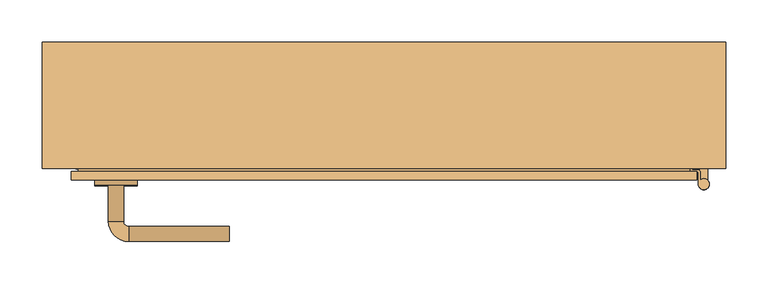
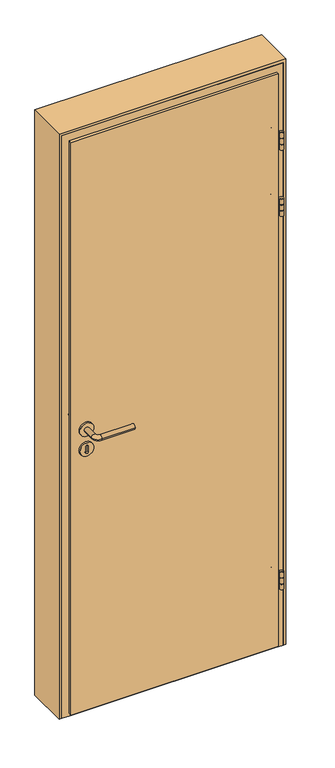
"""IFC4 building model written with IfcOpenShell, lengths in millimetres: door geometry, JW_Interior_Door_Steady_411_Single_1.0 : 790 x 1890 mm - M8 x M19."""

from ifc_helpers import new_model, si_unit, point, frame, frame_2d, origin, place, context, project, spatial, polyline, circle_curve, ellipse_curve, trimmed, segment, composite_curve, outline, extrude, faceted_brep, source, transform, mapped, element, save
from ifc_brep_helpers import plane_surface, cylinder_surface, revolved_surface, advanced_brep


def door_da3bd5c2(model_context):
    return source(origin(), model_context, "Body", "SolidModel", [
        advanced_brep(
        [(374.9018538, -88.3783893, 1955.5), (374.9018538, -79.9005704, 1955.5), (371.7009982, -76.6997148, 1955.5), (365.6997148, -76.6997148, 1955.5), (364.9, -75.9, 1955.5), (364.408042, -66.5128824, 1955.5), (364.1463622, -61.5197347, 1955.5), (361.6497884, -61.6505746, 1955.5), (361.9114682, -66.6437223, 1955.5), (362.4001557, -75.9684354, 1955.5), (365.6129452, -79.1812249, 1955.5), (371.5949734, -79.1812249, 1955.5), (372.404139, -79.9903905, 1955.5), (372.404139, -93.4990677, 1955.5), (374.9018538, -88.3783893, 1890.5), (372.404139, -93.4990677, 1890.5), (372.404139, -79.9903905, 1890.5), (371.5949734, -79.1812249, 1890.5), (365.6129452, -79.1812249, 1890.5), (362.4001557, -75.9684354, 1890.5), (361.9114682, -66.6437223, 1890.5), (361.6497884, -61.6505746, 1890.5), (364.1463622, -61.5197347, 1890.5), (364.408042, -66.5128824, 1890.5), (364.9, -75.9, 1890.5), (365.6997148, -76.6997148, 1890.5), (371.7009982, -76.6997148, 1890.5), (374.9018538, -79.9005704, 1890.5), (372.404139, -93.4990677, 1936.0), (374.9018538, -88.3783893, 1936.0), (374.9018538, -88.3783893, 1910.0), (372.404139, -93.4990677, 1910.0), (374.9018538, -79.9005704, 1936.0), (374.9018538, -79.9005704, 1910.0), (371.7009982, -76.6997148, 1936.0), (371.7009982, -76.6997148, 1910.0), (368.9, -76.6997148, 1936.0), (368.9, -76.6997148, 1910.0), (363.6230027, -51.5334394, 1900.5), (363.6230027, -51.5334394, 1945.5), (361.1264288, -51.6642792, 1900.5), (361.1264288, -51.6642792, 1945.5), (371.5949734, -79.1812249, 1910.0), (368.9, -79.1812249, 1910.0), (368.9, -79.1812249, 1936.0), (371.5949734, -79.1812249, 1936.0), (372.404139, -79.9903905, 1936.0), (372.404139, -79.9903905, 1910.0)],
        [
            (0, 1),
            (1, 2, circle_curve(frame((371.7009982, -79.9005704, 1955.5), z_axis=(0.0, 0.0, 1.0), x_axis=(0.0, 1.0, 0.0)), 3.2008556)),
            (2, 3),
            (3, 4, circle_curve(frame((365.6997148, -75.9, 1955.5), z_axis=(0.0, 0.0, -1.0), x_axis=(0.0, 1.0, 0.0)), 0.7997148)),
            (4, 5),
            (5, 6),
            (6, 7),
            (7, 8),
            (8, 9),
            (9, 10, circle_curve(frame((365.6129452, -75.9684354, 1955.5), z_axis=(0.0, 0.0, 1.0), x_axis=(0.0, 1.0, 0.0)), 3.2127895)),
            (10, 11),
            (11, 12, circle_curve(frame((371.5949734, -79.9903905, 1955.5), z_axis=(0.0, 0.0, -1.0), x_axis=(0.0, 1.0, 0.0)), 0.8091657)),
            (12, 13),
            (13, 0, circle_curve(frame((378.902064, -93.4990677, 1955.5), z_axis=(0.0, 0.0, 1.0), x_axis=(0.0, 1.0, 0.0)), 6.4979249)),
            (14, 15, circle_curve(frame((378.902064, -93.4990677, 1890.5), z_axis=(0.0, 0.0, -1.0), x_axis=(0.0, 1.0, 0.0)), 6.4979249)),
            (15, 16),
            (16, 17, circle_curve(frame((371.5949734, -79.9903905, 1890.5), z_axis=(0.0, 0.0, 1.0), x_axis=(0.0, 1.0, 0.0)), 0.8091657)),
            (17, 18),
            (18, 19, circle_curve(frame((365.6129452, -75.9684354, 1890.5), z_axis=(0.0, 0.0, -1.0), x_axis=(0.0, 1.0, 0.0)), 3.2127895)),
            (19, 20),
            (20, 21),
            (21, 22),
            (22, 23),
            (23, 24),
            (24, 25, circle_curve(frame((365.6997148, -75.9, 1890.5), z_axis=(0.0, 0.0, 1.0), x_axis=(0.0, 1.0, 0.0)), 0.7997148)),
            (25, 26),
            (26, 27, circle_curve(frame((371.7009982, -79.9005704, 1890.5), z_axis=(0.0, 0.0, -1.0), x_axis=(0.0, 1.0, 0.0)), 3.2008556)),
            (27, 14),
            (13, 28),
            (28, 29, circle_curve(frame((378.902064, -93.4990677, 1936.0), z_axis=(0.0, 0.0, 1.0), x_axis=(0.0, 1.0, 0.0)), 6.4979249)),
            (29, 0),
            (14, 30),
            (30, 31, circle_curve(frame((378.902064, -93.4990677, 1910.0), z_axis=(0.0, 0.0, -1.0), x_axis=(0.0, 1.0, 0.0)), 6.4979249)),
            (31, 15),
            (29, 32),
            (32, 1),
            (27, 33),
            (33, 30),
            (32, 34, circle_curve(frame((371.7009982, -79.9005704, 1936.0), z_axis=(0.0, 0.0, 1.0), x_axis=(0.0, 1.0, 0.0)), 3.2008556)),
            (34, 2),
            (26, 35),
            (35, 33, circle_curve(frame((371.7009982, -79.9005704, 1910.0), z_axis=(0.0, 0.0, -1.0), x_axis=(0.0, 1.0, 0.0)), 3.2008556)),
            (34, 36),
            (36, 37),
            (37, 35),
            (25, 3),
            (24, 4),
            (22, 38, circle_curve(frame((364.1463622, -61.5197347, 1900.5), z_axis=(0.9986295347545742, 0.05233595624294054, 0.0), x_axis=(0.05233595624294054, -0.9986295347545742, 0.0)), 10.0)),
            (38, 39),
            (39, 6, circle_curve(frame((364.1463622, -61.5197347, 1945.5), z_axis=(0.9986295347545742, 0.05233595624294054, 0.0), x_axis=(0.05233595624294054, -0.9986295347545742, 0.0)), 10.0)),
            (38, 40),
            (40, 41),
            (41, 39),
            (19, 9),
            (7, 41, circle_curve(frame((361.6497884, -61.6505746, 1945.5), z_axis=(-0.9986295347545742, -0.05233595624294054, 0.0), x_axis=(0.05233595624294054, -0.9986295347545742, 0.0)), 10.0)),
            (40, 21, circle_curve(frame((361.6497884, -61.6505746, 1900.5), z_axis=(-0.9986295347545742, -0.05233595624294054, 0.0), x_axis=(0.05233595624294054, -0.9986295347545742, 0.0)), 10.0)),
            (18, 10),
            (17, 42),
            (42, 43),
            (43, 44),
            (44, 45),
            (45, 11),
            (45, 46, circle_curve(frame((371.5949734, -79.9903905, 1936.0), z_axis=(0.0, 0.0, -1.0), x_axis=(0.0, 1.0, 0.0)), 0.8091657)),
            (46, 12),
            (16, 47),
            (47, 42, circle_curve(frame((371.5949734, -79.9903905, 1910.0), z_axis=(0.0, 0.0, 1.0), x_axis=(0.0, 1.0, 0.0)), 0.8091657)),
            (46, 28),
            (31, 47),
            (44, 36),
            (37, 43),
        ],
        [
            plane_surface(frame((374.9018538, -79.9005704, 1955.5), z_axis=(0.0, 0.0, 1.0), x_axis=(0.0, 1.0, 0.0))),
            plane_surface(frame((374.9018538, -79.9005704, 1890.5), z_axis=(0.0, 0.0, -1.0), x_axis=(0.0, -1.0, 0.0))),
            cylinder_surface(frame((378.902064, -93.4990677, 1890.5), z_axis=(0.0, 0.0, 1.0), x_axis=(0.0, 1.0, 0.0)), 6.4979249),
            plane_surface(frame((374.9018538, -88.3783893, 1955.5), z_axis=(1.0, 0.0, 0.0), x_axis=(0.0, 0.0, -1.0))),
            cylinder_surface(frame((371.7009982, -79.9005704, 1890.5), z_axis=(0.0, 0.0, 1.0), x_axis=(0.0, 1.0, 0.0)), 3.2008556),
            plane_surface(frame((371.7009982, -76.6997148, 1955.5), z_axis=(0.0, 1.0, 0.0), x_axis=(0.0, 0.0, -1.0))),
            revolved_surface(polyline([(365.6997148, -75.1002852, 1890.5), (365.6997148, -75.1002852, 1955.5)]), (365.6997148, -75.9, 1890.5), (0.0, 0.0, -1.0)),
            plane_surface(frame((364.9, -75.9, 1955.5), z_axis=(0.9986295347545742, 0.05233595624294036, 0.0), x_axis=(0.0, 0.0, -1.0))),
            plane_surface(frame((363.6230027, -51.5334394, 1955.5), z_axis=(-0.05233595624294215, 0.998629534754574, 0.0), x_axis=(0.0, 0.0, -1.0))),
            plane_surface(frame((361.1264288, -51.6642792, 1955.5), z_axis=(-0.9986295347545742, -0.05233595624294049, 0.0), x_axis=(0.0, 0.0, -1.0))),
            cylinder_surface(frame((365.6129452, -75.9684354, 1890.5), z_axis=(0.0, 0.0, 1.0), x_axis=(0.0, 1.0, 0.0)), 3.2127895),
            plane_surface(frame((365.6129452, -79.1812249, 1955.5), z_axis=(0.0, -1.0, 0.0), x_axis=(0.0, 0.0, -1.0))),
            revolved_surface(polyline([(371.5949734, -79.18122480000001, 1936.0), (371.5949734, -79.18122480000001, 1955.5)]), (371.5949734, -79.9903905, 1890.5), (0.0, 0.0, -1.0)),
            revolved_surface(polyline([(371.5949734, -79.18122480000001, 1890.5), (371.5949734, -79.18122480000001, 1910.0)]), (371.5949734, -79.9903905, 1890.5), (0.0, 0.0, -1.0)),
            plane_surface(frame((372.404139, -79.9903905, 1955.5), z_axis=(-1.0, 0.0, 0.0), x_axis=(0.0, 0.0, -1.0))),
            plane_surface(frame((386.4849846, -103.5564762, 1936.0), z_axis=(0.0, 0.0, -1.0), x_axis=(1.0, 0.0, 0.0))),
            plane_surface(frame((386.4849846, -103.5564762, 1910.0), z_axis=(0.0, 0.0, 1.0), x_axis=(-1.0, 0.0, 0.0))),
            plane_surface(frame((368.9, -73.5564762, 1936.0), z_axis=(1.0, 0.0, 0.0), x_axis=(0.0, 0.0, -1.0))),
            cylinder_surface(frame((369.1395099, -61.2580549, 1900.5), z_axis=(0.9986295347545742, 0.05233595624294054, 0.0), x_axis=(0.05233595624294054, -0.9986295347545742, 0.0)), 10.0),
            cylinder_surface(frame((369.1395099, -61.2580549, 1945.5), z_axis=(0.9986295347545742, 0.05233595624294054, 0.0), x_axis=(0.05233595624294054, -0.9986295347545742, 0.0)), 10.0),
        ],
        [
            (0, [[1, 2, 3, 4, 5, 6, 7, 8, 9, 10, 11, 12, 13, 14]]),
            (1, [[15, 16, 17, 18, 19, 20, 21, 22, 23, 24, 25, 26, 27, 28]]),
            (2, [[-14, 29, 30, 31]]),
            (2, [[-15, 32, 33, 34]]),
            (3, [[-1, -31, 35, 36]]),
            (3, [[-28, 37, 38, -32]]),
            (4, [[-2, -36, 39, 40]]),
            (4, [[-27, 41, 42, -37]]),
            (5, [[-3, -40, 43, 44, 45, -41, -26, 46]]),
            (6, [[-4, -46, -25, 47]]),
            (7, [[-47, -24, -23, 48, 49, 50, -6, -5]]),
            (8, [[-49, 51, 52, 53]]),
            (9, [[54, -9, -8, 55, -52, 56, -21, -20]]),
            (10, [[-10, -54, -19, 57]]),
            (11, [[-11, -57, -18, 58, 59, 60, 61, 62]]),
            (12, [[-12, -62, 63, 64]]),
            (13, [[-17, 65, 66, -58]]),
            (14, [[-13, -64, 67, -29]]),
            (14, [[-16, -34, 68, -65]]),
            (15, [[69, -43, -39, -35, -30, -67, -63, -61]]),
            (16, [[70, -59, -66, -68, -33, -38, -42, -45]]),
            (17, [[-69, -60, -70, -44]]),
            (18, [[-22, -56, -51, -48]]),
            (19, [[-7, -50, -53, -55]]),
        ],
    ),
        extrude(outline(composite_curve([segment(trimmed(circle_curve(frame_2d((378.9, -93.5)), 3.75), [point((375.15, -93.5))], [point((382.65, -93.5))], False, "CARTESIAN"), True, "CONTINUOUS"), segment(trimmed(circle_curve(frame_2d((378.9, -93.5)), 3.75), [point((382.65, -93.5))], [point((375.15, -93.5))], False, "CARTESIAN"), True, "CONTINUOUS")], self_intersect=False)), frame((0.0, 0.0, 1890.5), z_axis=(0.0, 0.0, 1.0), x_axis=(1.0, 0.0, 0.0)), (0.0, 0.0, 1.0), 65.0),
        extrude(outline(composite_curve([segment(trimmed(circle_curve(frame_2d((378.9, -93.5)), 6.5), [point((383.9, -89.3466881))], [point((373.9, -89.3466881))], False, "CARTESIAN"), True, "CONTINUOUS"), segment(polyline([(373.9, -89.3466881), (373.9, -75.0), (383.9, -75.0), (383.9, -89.3466881)]), True, "CONTINUOUS")], self_intersect=False)), frame((0.0, 0.0, 1913.0), z_axis=(0.0, 0.0, 1.0), x_axis=(1.0, 0.0, 0.0)), (0.0, 0.0, 1.0), 20.0),
        advanced_brep(
        [(374.9018538, -88.3783893, 1705.5), (374.9018538, -79.9005704, 1705.5), (371.7009982, -76.6997148, 1705.5), (365.6997148, -76.6997148, 1705.5), (364.9, -75.9, 1705.5), (364.408042, -66.5128824, 1705.5), (364.1463622, -61.5197347, 1705.5), (361.6497884, -61.6505746, 1705.5), (361.9114682, -66.6437223, 1705.5), (362.4001557, -75.9684354, 1705.5), (365.6129452, -79.1812249, 1705.5), (371.5949734, -79.1812249, 1705.5), (372.404139, -79.9903905, 1705.5), (372.404139, -93.4990677, 1705.5), (374.9018538, -88.3783893, 1640.5), (372.404139, -93.4990677, 1640.5), (372.404139, -79.9903905, 1640.5), (371.5949734, -79.1812249, 1640.5), (365.6129452, -79.1812249, 1640.5), (362.4001557, -75.9684354, 1640.5), (361.9114682, -66.6437223, 1640.5), (361.6497884, -61.6505746, 1640.5), (364.1463622, -61.5197347, 1640.5), (364.408042, -66.5128824, 1640.5), (364.9, -75.9, 1640.5), (365.6997148, -76.6997148, 1640.5), (371.7009982, -76.6997148, 1640.5), (374.9018538, -79.9005704, 1640.5), (372.404139, -93.4990677, 1686.0), (374.9018538, -88.3783893, 1686.0), (374.9018538, -88.3783893, 1660.0), (372.404139, -93.4990677, 1660.0), (374.9018538, -79.9005704, 1686.0), (374.9018538, -79.9005704, 1660.0), (371.7009982, -76.6997148, 1686.0), (371.7009982, -76.6997148, 1660.0), (368.9, -76.6997148, 1686.0), (368.9, -76.6997148, 1660.0), (363.6230027, -51.5334394, 1650.5), (363.6230027, -51.5334394, 1695.5), (361.1264288, -51.6642792, 1650.5), (361.1264288, -51.6642792, 1695.5), (371.5949734, -79.1812249, 1660.0), (368.9, -79.1812249, 1660.0), (368.9, -79.1812249, 1686.0), (371.5949734, -79.1812249, 1686.0), (372.404139, -79.9903905, 1686.0), (372.404139, -79.9903905, 1660.0)],
        [
            (0, 1),
            (1, 2, circle_curve(frame((371.7009982, -79.9005704, 1705.5), z_axis=(0.0, 0.0, 1.0), x_axis=(0.0, 1.0, 0.0)), 3.2008556)),
            (2, 3),
            (3, 4, circle_curve(frame((365.6997148, -75.9, 1705.5), z_axis=(0.0, 0.0, -1.0), x_axis=(0.0, 1.0, 0.0)), 0.7997148)),
            (4, 5),
            (5, 6),
            (6, 7),
            (7, 8),
            (8, 9),
            (9, 10, circle_curve(frame((365.6129452, -75.9684354, 1705.5), z_axis=(0.0, 0.0, 1.0), x_axis=(0.0, 1.0, 0.0)), 3.2127895)),
            (10, 11),
            (11, 12, circle_curve(frame((371.5949734, -79.9903905, 1705.5), z_axis=(0.0, 0.0, -1.0), x_axis=(0.0, 1.0, 0.0)), 0.8091657)),
            (12, 13),
            (13, 0, circle_curve(frame((378.902064, -93.4990677, 1705.5), z_axis=(0.0, 0.0, 1.0), x_axis=(0.0, 1.0, 0.0)), 6.4979249)),
            (14, 15, circle_curve(frame((378.902064, -93.4990677, 1640.5), z_axis=(0.0, 0.0, -1.0), x_axis=(0.0, 1.0, 0.0)), 6.4979249)),
            (15, 16),
            (16, 17, circle_curve(frame((371.5949734, -79.9903905, 1640.5), z_axis=(0.0, 0.0, 1.0), x_axis=(0.0, 1.0, 0.0)), 0.8091657)),
            (17, 18),
            (18, 19, circle_curve(frame((365.6129452, -75.9684354, 1640.5), z_axis=(0.0, 0.0, -1.0), x_axis=(0.0, 1.0, 0.0)), 3.2127895)),
            (19, 20),
            (20, 21),
            (21, 22),
            (22, 23),
            (23, 24),
            (24, 25, circle_curve(frame((365.6997148, -75.9, 1640.5), z_axis=(0.0, 0.0, 1.0), x_axis=(0.0, 1.0, 0.0)), 0.7997148)),
            (25, 26),
            (26, 27, circle_curve(frame((371.7009982, -79.9005704, 1640.5), z_axis=(0.0, 0.0, -1.0), x_axis=(0.0, 1.0, 0.0)), 3.2008556)),
            (27, 14),
            (13, 28),
            (28, 29, circle_curve(frame((378.902064, -93.4990677, 1686.0), z_axis=(0.0, 0.0, 1.0), x_axis=(0.0, 1.0, 0.0)), 6.4979249)),
            (29, 0),
            (14, 30),
            (30, 31, circle_curve(frame((378.902064, -93.4990677, 1660.0), z_axis=(0.0, 0.0, -1.0), x_axis=(0.0, 1.0, 0.0)), 6.4979249)),
            (31, 15),
            (29, 32),
            (32, 1),
            (27, 33),
            (33, 30),
            (32, 34, circle_curve(frame((371.7009982, -79.9005704, 1686.0), z_axis=(0.0, 0.0, 1.0), x_axis=(0.0, 1.0, 0.0)), 3.2008556)),
            (34, 2),
            (26, 35),
            (35, 33, circle_curve(frame((371.7009982, -79.9005704, 1660.0), z_axis=(0.0, 0.0, -1.0), x_axis=(0.0, 1.0, 0.0)), 3.2008556)),
            (34, 36),
            (36, 37),
            (37, 35),
            (25, 3),
            (24, 4),
            (22, 38, circle_curve(frame((364.1463622, -61.5197347, 1650.5), z_axis=(0.9986295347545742, 0.05233595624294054, 0.0), x_axis=(0.05233595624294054, -0.9986295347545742, 0.0)), 10.0)),
            (38, 39),
            (39, 6, circle_curve(frame((364.1463622, -61.5197347, 1695.5), z_axis=(0.9986295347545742, 0.05233595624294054, 0.0), x_axis=(0.05233595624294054, -0.9986295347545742, 0.0)), 10.0)),
            (38, 40),
            (40, 41),
            (41, 39),
            (19, 9),
            (7, 41, circle_curve(frame((361.6497884, -61.6505746, 1695.5), z_axis=(-0.9986295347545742, -0.05233595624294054, 0.0), x_axis=(0.05233595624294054, -0.9986295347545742, 0.0)), 10.0)),
            (40, 21, circle_curve(frame((361.6497884, -61.6505746, 1650.5), z_axis=(-0.9986295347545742, -0.05233595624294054, 0.0), x_axis=(0.05233595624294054, -0.9986295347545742, 0.0)), 10.0)),
            (18, 10),
            (17, 42),
            (42, 43),
            (43, 44),
            (44, 45),
            (45, 11),
            (45, 46, circle_curve(frame((371.5949734, -79.9903905, 1686.0), z_axis=(0.0, 0.0, -1.0), x_axis=(0.0, 1.0, 0.0)), 0.8091657)),
            (46, 12),
            (16, 47),
            (47, 42, circle_curve(frame((371.5949734, -79.9903905, 1660.0), z_axis=(0.0, 0.0, 1.0), x_axis=(0.0, 1.0, 0.0)), 0.8091657)),
            (46, 28),
            (31, 47),
            (44, 36),
            (37, 43),
        ],
        [
            plane_surface(frame((374.9018538, -79.9005704, 1705.5), z_axis=(0.0, 0.0, 1.0), x_axis=(0.0, 1.0, 0.0))),
            plane_surface(frame((374.9018538, -79.9005704, 1640.5), z_axis=(0.0, 0.0, -1.0), x_axis=(0.0, -1.0, 0.0))),
            cylinder_surface(frame((378.902064, -93.4990677, 1640.5), z_axis=(0.0, 0.0, 1.0), x_axis=(0.0, 1.0, 0.0)), 6.4979249),
            plane_surface(frame((374.9018538, -88.3783893, 1705.5), z_axis=(1.0, 0.0, 0.0), x_axis=(0.0, 0.0, -1.0))),
            cylinder_surface(frame((371.7009982, -79.9005704, 1640.5), z_axis=(0.0, 0.0, 1.0), x_axis=(0.0, 1.0, 0.0)), 3.2008556),
            plane_surface(frame((371.7009982, -76.6997148, 1705.5), z_axis=(0.0, 1.0, 0.0), x_axis=(0.0, 0.0, -1.0))),
            revolved_surface(polyline([(365.6997148, -75.1002852, 1640.5), (365.6997148, -75.1002852, 1705.5)]), (365.6997148, -75.9, 1640.5), (0.0, 0.0, -1.0)),
            plane_surface(frame((364.9, -75.9, 1705.5), z_axis=(0.9986295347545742, 0.05233595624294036, 0.0), x_axis=(0.0, 0.0, -1.0))),
            plane_surface(frame((363.6230027, -51.5334394, 1705.5), z_axis=(-0.05233595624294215, 0.998629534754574, 0.0), x_axis=(0.0, 0.0, -1.0))),
            plane_surface(frame((361.1264288, -51.6642792, 1705.5), z_axis=(-0.9986295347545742, -0.05233595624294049, 0.0), x_axis=(0.0, 0.0, -1.0))),
            cylinder_surface(frame((365.6129452, -75.9684354, 1640.5), z_axis=(0.0, 0.0, 1.0), x_axis=(0.0, 1.0, 0.0)), 3.2127895),
            plane_surface(frame((365.6129452, -79.1812249, 1705.5), z_axis=(0.0, -1.0, 0.0), x_axis=(0.0, 0.0, -1.0))),
            revolved_surface(polyline([(371.5949734, -79.18122480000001, 1686.0), (371.5949734, -79.18122480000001, 1705.5)]), (371.5949734, -79.9903905, 1640.5), (0.0, 0.0, -1.0)),
            revolved_surface(polyline([(371.5949734, -79.18122480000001, 1640.5), (371.5949734, -79.18122480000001, 1660.0)]), (371.5949734, -79.9903905, 1640.5), (0.0, 0.0, -1.0)),
            plane_surface(frame((372.404139, -79.9903905, 1705.5), z_axis=(-1.0, 0.0, 0.0), x_axis=(0.0, 0.0, -1.0))),
            plane_surface(frame((386.4849846, -103.5564762, 1686.0), z_axis=(0.0, 0.0, -1.0), x_axis=(1.0, 0.0, 0.0))),
            plane_surface(frame((386.4849846, -103.5564762, 1660.0), z_axis=(0.0, 0.0, 1.0), x_axis=(-1.0, 0.0, 0.0))),
            plane_surface(frame((368.9, -73.5564762, 1686.0), z_axis=(1.0, 0.0, 0.0), x_axis=(0.0, 0.0, -1.0))),
            cylinder_surface(frame((369.1395099, -61.2580549, 1650.5), z_axis=(0.9986295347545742, 0.05233595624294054, 0.0), x_axis=(0.05233595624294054, -0.9986295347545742, 0.0)), 10.0),
            cylinder_surface(frame((369.1395099, -61.2580549, 1695.5), z_axis=(0.9986295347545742, 0.05233595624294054, 0.0), x_axis=(0.05233595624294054, -0.9986295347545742, 0.0)), 10.0),
        ],
        [
            (0, [[1, 2, 3, 4, 5, 6, 7, 8, 9, 10, 11, 12, 13, 14]]),
            (1, [[15, 16, 17, 18, 19, 20, 21, 22, 23, 24, 25, 26, 27, 28]]),
            (2, [[-14, 29, 30, 31]]),
            (2, [[-15, 32, 33, 34]]),
            (3, [[-1, -31, 35, 36]]),
            (3, [[-28, 37, 38, -32]]),
            (4, [[-2, -36, 39, 40]]),
            (4, [[-27, 41, 42, -37]]),
            (5, [[-3, -40, 43, 44, 45, -41, -26, 46]]),
            (6, [[-4, -46, -25, 47]]),
            (7, [[-47, -24, -23, 48, 49, 50, -6, -5]]),
            (8, [[-49, 51, 52, 53]]),
            (9, [[54, -9, -8, 55, -52, 56, -21, -20]]),
            (10, [[-10, -54, -19, 57]]),
            (11, [[-11, -57, -18, 58, 59, 60, 61, 62]]),
            (12, [[-12, -62, 63, 64]]),
            (13, [[-17, 65, 66, -58]]),
            (14, [[-13, -64, 67, -29]]),
            (14, [[-16, -34, 68, -65]]),
            (15, [[69, -43, -39, -35, -30, -67, -63, -61]]),
            (16, [[70, -59, -66, -68, -33, -38, -42, -45]]),
            (17, [[-69, -60, -70, -44]]),
            (18, [[-22, -56, -51, -48]]),
            (19, [[-7, -50, -53, -55]]),
        ],
    ),
        extrude(outline(composite_curve([segment(trimmed(circle_curve(frame_2d((378.9, -93.5)), 3.75), [point((375.15, -93.5))], [point((382.65, -93.5))], False, "CARTESIAN"), True, "CONTINUOUS"), segment(trimmed(circle_curve(frame_2d((378.9, -93.5)), 3.75), [point((382.65, -93.5))], [point((375.15, -93.5))], False, "CARTESIAN"), True, "CONTINUOUS")], self_intersect=False)), frame((0.0, 0.0, 1640.5), z_axis=(0.0, 0.0, 1.0), x_axis=(1.0, 0.0, 0.0)), (0.0, 0.0, 1.0), 65.0),
        extrude(outline(composite_curve([segment(trimmed(circle_curve(frame_2d((378.9, -93.5)), 6.5), [point((383.9, -89.3466881))], [point((373.9, -89.3466881))], False, "CARTESIAN"), True, "CONTINUOUS"), segment(polyline([(373.9, -89.3466881), (373.9, -75.0), (383.9, -75.0), (383.9, -89.3466881)]), True, "CONTINUOUS")], self_intersect=False)), frame((0.0, 0.0, 1663.0), z_axis=(0.0, 0.0, 1.0), x_axis=(1.0, 0.0, 0.0)), (0.0, 0.0, 1.0), 20.0),
        advanced_brep(
        [(374.9018538, -88.3783893, 295.5), (374.9018538, -79.9005704, 295.5), (371.7009982, -76.6997148, 295.5), (365.6997148, -76.6997148, 295.5), (364.9, -75.9, 295.5), (364.408042, -66.5128824, 295.5), (364.1463622, -61.5197347, 295.5), (361.6497884, -61.6505746, 295.5), (361.9114682, -66.6437223, 295.5), (362.4001557, -75.9684354, 295.5), (365.6129452, -79.1812249, 295.5), (371.5949734, -79.1812249, 295.5), (372.404139, -79.9903905, 295.5), (372.404139, -93.4990677, 295.5), (374.9018538, -88.3783893, 230.5), (372.404139, -93.4990677, 230.5), (372.404139, -79.9903905, 230.5), (371.5949734, -79.1812249, 230.5), (365.6129452, -79.1812249, 230.5), (362.4001557, -75.9684354, 230.5), (361.9114682, -66.6437223, 230.5), (361.6497884, -61.6505746, 230.5), (364.1463622, -61.5197347, 230.5), (364.408042, -66.5128824, 230.5), (364.9, -75.9, 230.5), (365.6997148, -76.6997148, 230.5), (371.7009982, -76.6997148, 230.5), (374.9018538, -79.9005704, 230.5), (372.404139, -93.4990677, 276.0), (374.9018538, -88.3783893, 276.0), (374.9018538, -88.3783893, 250.0), (372.404139, -93.4990677, 250.0), (374.9018538, -79.9005704, 276.0), (374.9018538, -79.9005704, 250.0), (371.7009982, -76.6997148, 276.0), (371.7009982, -76.6997148, 250.0), (368.9, -76.6997148, 276.0), (368.9, -76.6997148, 250.0), (363.6230027, -51.5334394, 240.5), (363.6230027, -51.5334394, 285.5), (361.1264288, -51.6642792, 240.5), (361.1264288, -51.6642792, 285.5), (371.5949734, -79.1812249, 250.0), (368.9, -79.1812249, 250.0), (368.9, -79.1812249, 276.0), (371.5949734, -79.1812249, 276.0), (372.404139, -79.9903905, 276.0), (372.404139, -79.9903905, 250.0)],
        [
            (0, 1),
            (1, 2, circle_curve(frame((371.7009982, -79.9005704, 295.5), z_axis=(0.0, 0.0, 1.0), x_axis=(0.0, 1.0, 0.0)), 3.2008556)),
            (2, 3),
            (3, 4, circle_curve(frame((365.6997148, -75.9, 295.5), z_axis=(0.0, 0.0, -1.0), x_axis=(0.0, 1.0, 0.0)), 0.7997148)),
            (4, 5),
            (5, 6),
            (6, 7),
            (7, 8),
            (8, 9),
            (9, 10, circle_curve(frame((365.6129452, -75.9684354, 295.5), z_axis=(0.0, 0.0, 1.0), x_axis=(0.0, 1.0, 0.0)), 3.2127895)),
            (10, 11),
            (11, 12, circle_curve(frame((371.5949734, -79.9903905, 295.5), z_axis=(0.0, 0.0, -1.0), x_axis=(0.0, 1.0, 0.0)), 0.8091657)),
            (12, 13),
            (13, 0, circle_curve(frame((378.902064, -93.4990677, 295.5), z_axis=(0.0, 0.0, 1.0), x_axis=(0.0, 1.0, 0.0)), 6.4979249)),
            (14, 15, circle_curve(frame((378.902064, -93.4990677, 230.5), z_axis=(0.0, 0.0, -1.0), x_axis=(0.0, 1.0, 0.0)), 6.4979249)),
            (15, 16),
            (16, 17, circle_curve(frame((371.5949734, -79.9903905, 230.5), z_axis=(0.0, 0.0, 1.0), x_axis=(0.0, 1.0, 0.0)), 0.8091657)),
            (17, 18),
            (18, 19, circle_curve(frame((365.6129452, -75.9684354, 230.5), z_axis=(0.0, 0.0, -1.0), x_axis=(0.0, 1.0, 0.0)), 3.2127895)),
            (19, 20),
            (20, 21),
            (21, 22),
            (22, 23),
            (23, 24),
            (24, 25, circle_curve(frame((365.6997148, -75.9, 230.5), z_axis=(0.0, 0.0, 1.0), x_axis=(0.0, 1.0, 0.0)), 0.7997148)),
            (25, 26),
            (26, 27, circle_curve(frame((371.7009982, -79.9005704, 230.5), z_axis=(0.0, 0.0, -1.0), x_axis=(0.0, 1.0, 0.0)), 3.2008556)),
            (27, 14),
            (13, 28),
            (28, 29, circle_curve(frame((378.902064, -93.4990677, 276.0), z_axis=(0.0, 0.0, 1.0), x_axis=(0.0, 1.0, 0.0)), 6.4979249)),
            (29, 0),
            (14, 30),
            (30, 31, circle_curve(frame((378.902064, -93.4990677, 250.0), z_axis=(0.0, 0.0, -1.0), x_axis=(0.0, 1.0, 0.0)), 6.4979249)),
            (31, 15),
            (29, 32),
            (32, 1),
            (27, 33),
            (33, 30),
            (32, 34, circle_curve(frame((371.7009982, -79.9005704, 276.0), z_axis=(0.0, 0.0, 1.0), x_axis=(0.0, 1.0, 0.0)), 3.2008556)),
            (34, 2),
            (26, 35),
            (35, 33, circle_curve(frame((371.7009982, -79.9005704, 250.0), z_axis=(0.0, 0.0, -1.0), x_axis=(0.0, 1.0, 0.0)), 3.2008556)),
            (34, 36),
            (36, 37),
            (37, 35),
            (25, 3),
            (24, 4),
            (22, 38, circle_curve(frame((364.1463622, -61.5197347, 240.5), z_axis=(0.9986295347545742, 0.05233595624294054, 0.0), x_axis=(0.05233595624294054, -0.9986295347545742, 0.0)), 10.0)),
            (38, 39),
            (39, 6, circle_curve(frame((364.1463622, -61.5197347, 285.5), z_axis=(0.9986295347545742, 0.05233595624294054, 0.0), x_axis=(0.05233595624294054, -0.9986295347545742, 0.0)), 10.0)),
            (38, 40),
            (40, 41),
            (41, 39),
            (19, 9),
            (7, 41, circle_curve(frame((361.6497884, -61.6505746, 285.5), z_axis=(-0.9986295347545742, -0.05233595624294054, 0.0), x_axis=(0.05233595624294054, -0.9986295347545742, 0.0)), 10.0)),
            (40, 21, circle_curve(frame((361.6497884, -61.6505746, 240.5), z_axis=(-0.9986295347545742, -0.05233595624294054, 0.0), x_axis=(0.05233595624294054, -0.9986295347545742, 0.0)), 10.0)),
            (18, 10),
            (17, 42),
            (42, 43),
            (43, 44),
            (44, 45),
            (45, 11),
            (45, 46, circle_curve(frame((371.5949734, -79.9903905, 276.0), z_axis=(0.0, 0.0, -1.0), x_axis=(0.0, 1.0, 0.0)), 0.8091657)),
            (46, 12),
            (16, 47),
            (47, 42, circle_curve(frame((371.5949734, -79.9903905, 250.0), z_axis=(0.0, 0.0, 1.0), x_axis=(0.0, 1.0, 0.0)), 0.8091657)),
            (46, 28),
            (31, 47),
            (44, 36),
            (37, 43),
        ],
        [
            plane_surface(frame((374.9018538, -79.9005704, 295.5), z_axis=(0.0, 0.0, 1.0), x_axis=(0.0, 1.0, 0.0))),
            plane_surface(frame((374.9018538, -79.9005704, 230.5), z_axis=(0.0, 0.0, -1.0), x_axis=(0.0, -1.0, 0.0))),
            cylinder_surface(frame((378.902064, -93.4990677, 230.5), z_axis=(0.0, 0.0, 1.0), x_axis=(0.0, 1.0, 0.0)), 6.4979249),
            plane_surface(frame((374.9018538, -88.3783893, 295.5), z_axis=(1.0, 0.0, 0.0), x_axis=(0.0, 0.0, -1.0))),
            cylinder_surface(frame((371.7009982, -79.9005704, 230.5), z_axis=(0.0, 0.0, 1.0), x_axis=(0.0, 1.0, 0.0)), 3.2008556),
            plane_surface(frame((371.7009982, -76.6997148, 295.5), z_axis=(0.0, 1.0, 0.0), x_axis=(0.0, 0.0, -1.0))),
            revolved_surface(polyline([(365.6997148, -75.1002852, 230.5), (365.6997148, -75.1002852, 295.5)]), (365.6997148, -75.9, 230.5), (0.0, 0.0, -1.0)),
            plane_surface(frame((364.9, -75.9, 295.5), z_axis=(0.9986295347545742, 0.05233595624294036, 0.0), x_axis=(0.0, 0.0, -1.0))),
            plane_surface(frame((363.6230027, -51.5334394, 295.5), z_axis=(-0.05233595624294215, 0.998629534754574, 0.0), x_axis=(0.0, 0.0, -1.0))),
            plane_surface(frame((361.1264288, -51.6642792, 295.5), z_axis=(-0.9986295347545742, -0.05233595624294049, 0.0), x_axis=(0.0, 0.0, -1.0))),
            cylinder_surface(frame((365.6129452, -75.9684354, 230.5), z_axis=(0.0, 0.0, 1.0), x_axis=(0.0, 1.0, 0.0)), 3.2127895),
            plane_surface(frame((365.6129452, -79.1812249, 295.5), z_axis=(0.0, -1.0, 0.0), x_axis=(0.0, 0.0, -1.0))),
            revolved_surface(polyline([(371.5949734, -79.18122480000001, 276.0), (371.5949734, -79.18122480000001, 295.5)]), (371.5949734, -79.9903905, 230.5), (0.0, 0.0, -1.0)),
            revolved_surface(polyline([(371.5949734, -79.18122480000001, 230.5), (371.5949734, -79.18122480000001, 250.0)]), (371.5949734, -79.9903905, 230.5), (0.0, 0.0, -1.0)),
            plane_surface(frame((372.404139, -79.9903905, 295.5), z_axis=(-1.0, 0.0, 0.0), x_axis=(0.0, 0.0, -1.0))),
            plane_surface(frame((386.4849846, -103.5564762, 276.0), z_axis=(0.0, 0.0, -1.0), x_axis=(1.0, 0.0, 0.0))),
            plane_surface(frame((386.4849846, -103.5564762, 250.0), z_axis=(0.0, 0.0, 1.0), x_axis=(-1.0, 0.0, 0.0))),
            plane_surface(frame((368.9, -73.5564762, 276.0), z_axis=(1.0, 0.0, 0.0), x_axis=(0.0, 0.0, -1.0))),
            cylinder_surface(frame((369.1395099, -61.2580549, 240.5), z_axis=(0.9986295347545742, 0.05233595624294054, 0.0), x_axis=(0.05233595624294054, -0.9986295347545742, 0.0)), 10.0),
            cylinder_surface(frame((369.1395099, -61.2580549, 285.5), z_axis=(0.9986295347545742, 0.05233595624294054, 0.0), x_axis=(0.05233595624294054, -0.9986295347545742, 0.0)), 10.0),
        ],
        [
            (0, [[1, 2, 3, 4, 5, 6, 7, 8, 9, 10, 11, 12, 13, 14]]),
            (1, [[15, 16, 17, 18, 19, 20, 21, 22, 23, 24, 25, 26, 27, 28]]),
            (2, [[-14, 29, 30, 31]]),
            (2, [[-15, 32, 33, 34]]),
            (3, [[-1, -31, 35, 36]]),
            (3, [[-28, 37, 38, -32]]),
            (4, [[-2, -36, 39, 40]]),
            (4, [[-27, 41, 42, -37]]),
            (5, [[-3, -40, 43, 44, 45, -41, -26, 46]]),
            (6, [[-4, -46, -25, 47]]),
            (7, [[-47, -24, -23, 48, 49, 50, -6, -5]]),
            (8, [[-49, 51, 52, 53]]),
            (9, [[54, -9, -8, 55, -52, 56, -21, -20]]),
            (10, [[-10, -54, -19, 57]]),
            (11, [[-11, -57, -18, 58, 59, 60, 61, 62]]),
            (12, [[-12, -62, 63, 64]]),
            (13, [[-17, 65, 66, -58]]),
            (14, [[-13, -64, 67, -29]]),
            (14, [[-16, -34, 68, -65]]),
            (15, [[69, -43, -39, -35, -30, -67, -63, -61]]),
            (16, [[70, -59, -66, -68, -33, -38, -42, -45]]),
            (17, [[-69, -60, -70, -44]]),
            (18, [[-22, -56, -51, -48]]),
            (19, [[-7, -50, -53, -55]]),
        ],
    ),
        extrude(outline(composite_curve([segment(trimmed(circle_curve(frame_2d((378.9, -93.5)), 3.75), [point((375.15, -93.5))], [point((382.65, -93.5))], False, "CARTESIAN"), True, "CONTINUOUS"), segment(trimmed(circle_curve(frame_2d((378.9, -93.5)), 3.75), [point((382.65, -93.5))], [point((375.15, -93.5))], False, "CARTESIAN"), True, "CONTINUOUS")], self_intersect=False)), frame((0.0, 0.0, 230.5), z_axis=(0.0, 0.0, 1.0), x_axis=(1.0, 0.0, 0.0)), (0.0, 0.0, 1.0), 65.0),
        extrude(outline(composite_curve([segment(trimmed(circle_curve(frame_2d((378.9, -93.5)), 6.5), [point((383.9, -89.3466881))], [point((373.9, -89.3466881))], False, "CARTESIAN"), True, "CONTINUOUS"), segment(polyline([(373.9, -89.3466881), (373.9, -75.0), (383.9, -75.0), (383.9, -89.3466881)]), True, "CONTINUOUS")], self_intersect=False)), frame((0.0, 0.0, 253.0), z_axis=(0.0, 0.0, 1.0), x_axis=(1.0, 0.0, 0.0)), (0.0, 0.0, 1.0), 20.0),
        faceted_brep([(-395.0, 17.0, 0.0), (-353.0, 17.0, 0.0), (-353.0, -45.0, 0.0), (-365.0, -45.0, 0.0), (-365.0, -75.0, 0.0), (-395.0, -75.0, 0.0), (-395.0, -75.0, 2200.0), (-395.0, 17.0, 2200.0), (-365.0, -75.0, 2170.0), (365.0, -75.0, 2170.0), (365.0, -75.0, 0.0), (395.0, -75.0, 0.0), (395.0, -75.0, 2200.0), (-365.0, -45.0, 2170.0), (-353.0, -45.0, 2158.0), (353.0, -45.0, 2158.0), (353.0, -45.0, 0.0), (365.0, -45.0, 0.0), (365.0, -45.0, 2170.0), (-353.0, 17.0, 2158.0), (395.0, 17.0, 2200.0), (395.0, 17.0, 0.0), (353.0, 17.0, 0.0), (353.0, 17.0, 2158.0)], [[[0, 1, 2, 3, 4, 5]], [[5, 6, 7, 0]], [[4, 8, 9, 10, 11, 12, 6, 5]], [[3, 13, 8, 4]], [[2, 14, 15, 16, 17, 18, 13, 3]], [[1, 19, 14, 2]], [[0, 7, 20, 21, 22, 23, 19, 1]], [[12, 11, 21, 20]], [[21, 11, 10, 17, 16, 22]], [[18, 17, 10, 9]], [[23, 22, 16, 15]], [[6, 12, 20, 7]], [[13, 18, 9, 8]], [[19, 23, 15, 14]]]),
        faceted_brep([(365.0, -75.0, 0.0), (365.0, -45.0, 0.0), (365.0, -45.0, 15.0), (365.0, -75.0, 15.0), (-365.0, -45.0, 15.0), (-365.0, -45.0, 0.0), (-365.0, -75.0, 0.0), (-365.0, -75.0, 15.0), (-353.0, -45.0, 0.0), (-353.0, 17.0, 0.0), (353.0, 17.0, 0.0), (353.0, -45.0, 0.0), (353.0, -45.0, 15.0), (-353.0, -45.0, 15.0), (353.0, -45.0, 22.0), (-353.0, -45.0, 22.0), (353.0, 17.0, 22.0), (-353.0, 17.0, 22.0)], [[[0, 1, 2, 3]], [[4, 5, 6, 7]], [[6, 5, 8, 9, 10, 11, 1, 0]], [[3, 7, 6, 0]], [[2, 12, 13, 4, 7, 3]], [[12, 14, 15, 13]], [[14, 16, 17, 15]], [[9, 17, 16, 10]], [[8, 5, 4, 13]], [[13, 15, 17, 9, 8]], [[11, 10, 16, 14, 12]], [[12, 2, 1, 11]]]),
        extrude(outline(composite_curve([segment(trimmed(circle_curve(frame_2d((1001.0, -317.5)), 25.0), [point((1001.0, -292.5))], [point((1001.0, -342.5))], False, "CARTESIAN"), True, "CONTINUOUS"), segment(trimmed(circle_curve(frame_2d((1001.0, -317.5)), 25.0), [point((1001.0, -342.5))], [point((1001.0, -292.5))], False, "CARTESIAN"), True, "CONTINUOUS")], self_intersect=False), holes=[composite_curve([segment(polyline([(989.756589, -321.5), (1012.243411, -321.5)]), True, "CONTINUOUS"), segment(trimmed(circle_curve(frame_2d((1012.243411, -317.5)), 4.0), [point((1012.243411, -321.5))], [point((1012.243411, -313.5))], True, "CARTESIAN"), True, "CONTINUOUS"), segment(polyline([(1012.243411, -313.5), (989.756589, -313.5)]), True, "CONTINUOUS"), segment(trimmed(circle_curve(frame_2d((989.756589, -317.5)), 4.0), [point((989.756589, -313.5))], [point((989.756589, -321.5))], True, "CARTESIAN"), True, "CONTINUOUS")], self_intersect=False)]), frame((0.0, -48.5, 0.0), z_axis=(0.0, 1.0, 0.0), x_axis=(0.0, 0.0, 1.0)), (0.0, 0.0, 1.0), 7.0),
        extrude(outline(composite_curve([segment(trimmed(circle_curve(frame_2d((1001.0, -317.5)), 25.0), [point((1001.0, -292.5))], [point((1001.0, -342.5))], False, "CARTESIAN"), True, "CONTINUOUS"), segment(trimmed(circle_curve(frame_2d((1001.0, -317.5)), 25.0), [point((1001.0, -342.5))], [point((1001.0, -292.5))], False, "CARTESIAN"), True, "CONTINUOUS")], self_intersect=False), holes=[composite_curve([segment(trimmed(circle_curve(frame_2d((1012.243411, -317.5)), 4.0), [point((1012.243411, -321.5))], [point((1012.243411, -313.5))], True, "CARTESIAN"), True, "CONTINUOUS"), segment(polyline([(1012.243411, -313.5), (989.756589, -313.5)]), True, "CONTINUOUS"), segment(trimmed(circle_curve(frame_2d((989.756589, -317.5)), 4.0), [point((989.756589, -313.5))], [point((989.756589, -321.5))], True, "CARTESIAN"), True, "CONTINUOUS"), segment(polyline([(989.756589, -321.5), (1012.243411, -321.5)]), True, "CONTINUOUS")], self_intersect=False)]), frame((0.0, -95.5, 0.0), z_axis=(0.0, 1.0, 0.0), x_axis=(0.0, 0.0, 1.0)), (0.0, 0.0, 1.0), 7.0),
        advanced_brep(
        [(-342.5, -42.5, 1075.0), (-292.5, -42.5, 1075.0), (-308.5346073, -42.5, 1075.0), (-326.4653927, -42.5, 1075.0), (-342.5, -48.5, 1075.0), (-292.5, -48.5, 1075.0), (-308.5346073, 0.4627146, 1075.0), (-326.4653927, 0.4627146, 1075.0), (-302.5, 6.4973219, 1075.0), (-302.5, 24.4281073, 1075.0), (-183.5, 6.4973219, 1075.0), (-183.5, 24.4281073, 1075.0)],
        [
            (0, 1, circle_curve(frame((-317.5, -42.5, 1075.0), z_axis=(0.0, 1.0, 0.0), x_axis=(1.0, 0.0, 0.0)), 25.0)),
            (1, 0, circle_curve(frame((-317.5, -42.5, 1075.0), z_axis=(0.0, 1.0, 0.0), x_axis=(1.0, 0.0, 0.0)), 25.0)),
            (2, 3, circle_curve(frame((-317.5, -42.5, 1075.0), z_axis=(0.0, -1.0, 0.0), x_axis=(-1.0, 0.0, 0.0)), 8.9653927)),
            (3, 2, circle_curve(frame((-317.5, -42.5, 1075.0), z_axis=(0.0, -1.0, 0.0), x_axis=(-1.0, 0.0, 0.0)), 8.9653927)),
            (4, 5, circle_curve(frame((-317.5, -48.5, 1075.0), z_axis=(0.0, -1.0, 0.0), x_axis=(1.0, 0.0, 0.0)), 25.0)),
            (5, 4, circle_curve(frame((-317.5, -48.5, 1075.0), z_axis=(0.0, -1.0, 0.0), x_axis=(1.0, 0.0, 0.0)), 25.0)),
            (1, 5),
            (4, 0),
            (2, 6),
            (6, 7, circle_curve(frame((-317.5, 0.4627146, 1075.0), z_axis=(0.0, -1.0, 0.0), x_axis=(-1.0, 0.0, 0.0)), 8.9653927)),
            (7, 3),
            (7, 6, circle_curve(frame((-317.5, 0.4627146, 1075.0), z_axis=(0.0, -1.0, 0.0), x_axis=(-1.0, 0.0, 0.0)), 8.9653927)),
            (6, 8, circle_curve(frame((-302.5, 0.4627146, 1075.0), z_axis=(0.0, 0.0, -1.0), x_axis=(-1.0, 0.0, 0.0)), 6.0346073)),
            (8, 9, circle_curve(frame((-302.5, 15.4627146, 1075.0), z_axis=(-1.0, 0.0, 0.0), x_axis=(0.0, 1.0, 0.0)), 8.9653927)),
            (9, 7, circle_curve(frame((-302.5, 0.4627146, 1075.0), z_axis=(0.0, 0.0, 1.0), x_axis=(-1.0, 0.0, 0.0)), 23.9653927)),
            (9, 8, circle_curve(frame((-302.5, 15.4627146, 1075.0), z_axis=(-1.0, 0.0, 0.0), x_axis=(0.0, 1.0, 0.0)), 8.9653927)),
            (10, 11, circle_curve(frame((-183.5, 15.4627146, 1075.0), z_axis=(1.0, 0.0, 0.0), x_axis=(0.0, 1.0, 0.0)), 8.9653927)),
            (11, 10, circle_curve(frame((-183.5, 15.4627146, 1075.0), z_axis=(1.0, 0.0, 0.0), x_axis=(0.0, 1.0, 0.0)), 8.9653927)),
            (8, 10),
            (11, 9),
        ],
        [
            plane_surface(frame((-292.5, -42.5, 1075.0), z_axis=(0.0, 1.0, 0.0), x_axis=(0.0, 0.0, -1.0))),
            plane_surface(frame((-292.5, -48.5, 1075.0), z_axis=(0.0, -1.0, 0.0), x_axis=(0.0, 0.0, 1.0))),
            cylinder_surface(frame((-317.5, -42.5, 1075.0), z_axis=(0.0, -1.0, 0.0), x_axis=(1.0, 0.0, 0.0)), 25.0),
            cylinder_surface(frame((-317.5, -42.5, 1075.0), z_axis=(0.0, -1.0, 0.0), x_axis=(-1.0, 0.0, 0.0)), 8.9653927),
            revolved_surface(trimmed(ellipse_curve(frame((-317.5, 0.4627146, 1075.0), z_axis=(0.0, -1.0, 0.0), x_axis=(-1.0, 0.0, 0.0)), 8.9653927, 8.9653927), [point((-308.5346073, 0.4627146, 1075.0))], [point((-326.4653927, 0.4627146, 1075.0))], True, "CARTESIAN"), (-302.5, 0.4627146, 1075.0), (0.0, 0.0, -1.0)),
            revolved_surface(trimmed(ellipse_curve(frame((-317.5, 0.4627146, 1075.0), z_axis=(0.0, -1.0, 0.0), x_axis=(-1.0, 0.0, 0.0)), 8.9653927, 8.9653927), [point((-326.4653927, 0.4627146, 1075.0))], [point((-308.5346073, 0.4627146, 1075.0))], True, "CARTESIAN"), (-302.5, 0.4627146, 1075.0), (0.0, 0.0, -1.0)),
            plane_surface(frame((-183.5, 15.4627146, 1075.0), z_axis=(1.0, 0.0, 0.0), x_axis=(0.0, 0.0, 1.0))),
            cylinder_surface(frame((-302.5, 15.4627146, 1075.0), z_axis=(-1.0, 0.0, 0.0), x_axis=(0.0, 1.0, 0.0)), 8.9653927),
        ],
        [
            (0, [[1, 2], [3, 4]]),
            (1, [[5, 6]]),
            (2, [[-2, 7, -5, 8]]),
            (2, [[-1, -8, -6, -7]]),
            (3, [[9, 10, 11, -3]]),
            (3, [[-9, -4, -11, 12]]),
            (4, [[-10, 13, 14, 15]]),
            (5, [[-12, -15, 16, -13]]),
            (6, [[17, 18]]),
            (7, [[-14, 19, -18, 20]]),
            (7, [[-16, -20, -17, -19]]),
        ],
    ),
        advanced_brep(
        [(-342.5, -94.5, 1075.0), (-292.5, -94.5, 1075.0), (-308.5346073, -94.5, 1075.0), (-326.4653927, -94.5, 1075.0), (-342.5, -88.5, 1075.0), (-292.5, -88.5, 1075.0), (-326.4653927, -137.4627146, 1075.0), (-308.5346073, -137.4627146, 1075.0), (-302.5, -161.4281073, 1075.0), (-302.5, -143.4973219, 1075.0), (-183.5, -143.4973219, 1075.0), (-183.5, -161.4281073, 1075.0)],
        [
            (0, 1, circle_curve(frame((-317.5, -94.5, 1075.0), z_axis=(0.0, -1.0, 0.0), x_axis=(1.0, 0.0, 0.0)), 25.0)),
            (1, 0, circle_curve(frame((-317.5, -94.5, 1075.0), z_axis=(0.0, -1.0, 0.0), x_axis=(1.0, 0.0, 0.0)), 25.0)),
            (2, 3, circle_curve(frame((-317.5, -94.5, 1075.0), z_axis=(0.0, 1.0, 0.0), x_axis=(-1.0, 0.0, 0.0)), 8.9653927)),
            (3, 2, circle_curve(frame((-317.5, -94.5, 1075.0), z_axis=(0.0, 1.0, 0.0), x_axis=(-1.0, 0.0, 0.0)), 8.9653927)),
            (4, 5, circle_curve(frame((-317.5, -88.5, 1075.0), z_axis=(0.0, 1.0, 0.0), x_axis=(1.0, 0.0, 0.0)), 25.0)),
            (5, 4, circle_curve(frame((-317.5, -88.5, 1075.0), z_axis=(0.0, 1.0, 0.0), x_axis=(1.0, 0.0, 0.0)), 25.0)),
            (0, 4),
            (5, 1),
            (3, 6),
            (6, 7, circle_curve(frame((-317.5, -137.4627146, 1075.0), z_axis=(0.0, 1.0, 0.0), x_axis=(-1.0, 0.0, 0.0)), 8.9653927)),
            (7, 2),
            (7, 6, circle_curve(frame((-317.5, -137.4627146, 1075.0), z_axis=(0.0, 1.0, 0.0), x_axis=(-1.0, 0.0, 0.0)), 8.9653927)),
            (6, 8, circle_curve(frame((-302.5, -137.4627146, 1075.0), z_axis=(0.0, 0.0, 1.0), x_axis=(-1.0, 0.0, 0.0)), 23.9653927)),
            (8, 9, circle_curve(frame((-302.5, -152.4627146, 1075.0), z_axis=(-1.0, 0.0, 0.0), x_axis=(0.0, -1.0, 0.0)), 8.9653927)),
            (9, 7, circle_curve(frame((-302.5, -137.4627146, 1075.0), z_axis=(0.0, 0.0, -1.0), x_axis=(-1.0, 0.0, 0.0)), 6.0346073)),
            (9, 8, circle_curve(frame((-302.5, -152.4627146, 1075.0), z_axis=(-1.0, 0.0, 0.0), x_axis=(0.0, -1.0, 0.0)), 8.9653927)),
            (10, 11, circle_curve(frame((-183.5, -152.4627146, 1075.0), z_axis=(1.0, 0.0, 0.0), x_axis=(0.0, -1.0, 0.0)), 8.9653927)),
            (11, 10, circle_curve(frame((-183.5, -152.4627146, 1075.0), z_axis=(1.0, 0.0, 0.0), x_axis=(0.0, -1.0, 0.0)), 8.9653927)),
            (8, 11),
            (10, 9),
        ],
        [
            plane_surface(frame((-292.5, -94.5, 1075.0), z_axis=(0.0, -1.0, 0.0), x_axis=(0.0, 0.0, -1.0))),
            plane_surface(frame((-292.5, -88.5, 1075.0), z_axis=(0.0, 1.0, 0.0), x_axis=(0.0, 0.0, 1.0))),
            cylinder_surface(frame((-317.5, -94.5, 1075.0), z_axis=(0.0, 1.0, 0.0), x_axis=(1.0, 0.0, 0.0)), 25.0),
            cylinder_surface(frame((-317.5, -94.5, 1075.0), z_axis=(0.0, 1.0, 0.0), x_axis=(-1.0, 0.0, 0.0)), 8.9653927),
            revolved_surface(trimmed(ellipse_curve(frame((-317.5, -137.4627146, 1075.0), z_axis=(0.0, -1.0, 0.0), x_axis=(-1.0, 0.0, 0.0)), 8.9653927, 8.9653927), [point((-308.5346073, -137.4627146, 1075.0))], [point((-326.4653927, -137.4627146, 1075.0))], True, "CARTESIAN"), (-302.5, -137.4627146, 1075.0), (0.0, 0.0, -1.0)),
            revolved_surface(trimmed(ellipse_curve(frame((-317.5, -137.4627146, 1075.0), z_axis=(0.0, -1.0, 0.0), x_axis=(-1.0, 0.0, 0.0)), 8.9653927, 8.9653927), [point((-326.4653927, -137.4627146, 1075.0))], [point((-308.5346073, -137.4627146, 1075.0))], True, "CARTESIAN"), (-302.5, -137.4627146, 1075.0), (0.0, 0.0, -1.0)),
            plane_surface(frame((-183.5, -152.4627146, 1075.0), z_axis=(1.0, 0.0, 0.0), x_axis=(0.0, 0.0, 1.0))),
            cylinder_surface(frame((-302.5, -152.4627146, 1075.0), z_axis=(-1.0, 0.0, 0.0), x_axis=(0.0, -1.0, 0.0)), 8.9653927),
        ],
        [
            (0, [[1, 2], [3, 4]]),
            (1, [[5, 6]]),
            (2, [[7, -6, 8, -1]]),
            (2, [[-8, -5, -7, -2]]),
            (3, [[-4, 9, 10, 11]]),
            (3, [[12, -9, -3, -11]]),
            (4, [[13, 14, 15, -10]]),
            (5, [[-15, 16, -13, -12]]),
            (6, [[17, 18]]),
            (7, [[19, -17, 20, -14]]),
            (7, [[-20, -18, -19, -16]]),
        ],
    ),
        faceted_brep([(360.4021956, -48.5, 18.0), (-360.4021956, -48.5, 18.0), (-360.4021956, -48.5, 2168.0), (360.4021956, -48.5, 2168.0), (362.5, -78.5, 2168.0), (362.5, -78.5, 18.0), (-362.5, -78.5, 18.0), (-362.5, -78.5, 2168.0), (-370.5, -88.5, 2174.0), (-370.5, -88.5, 12.0), (370.5, -88.5, 12.0), (370.5, -88.5, 2174.0), (370.5, -78.5, 12.0), (370.5, -78.5, 2174.0), (-370.5, -78.5, 12.0), (-370.5, -78.5, 2174.0)], [[[0, 1, 2, 3]], [[3, 4, 5, 0]], [[1, 6, 7, 2]], [[6, 1, 0, 5]], [[8, 9, 10, 11]], [[10, 12, 13, 11]], [[9, 14, 12, 10]], [[8, 15, 14, 9]], [[14, 15, 13, 12], [7, 6, 5, 4]], [[11, 13, 15, 8]], [[4, 3, 2, 7]]]),
        extrude(outline(polyline([(0.0, 405.0), (2210.0, 405.0), (2210.0, -405.0), (0.0, -405.0), (0.0, -395.0), (2200.0, -395.0), (2200.0, 395.0), (0.0, 395.0), (0.0, 405.0)])), frame((0.0, -75.0, 0.0), z_axis=(0.0, 1.0, 0.0), x_axis=(0.0, 0.0, 1.0)), (0.0, 0.0, 1.0), 150.0),
    ])


if __name__ == "__main__":
    model = new_model("IFC4")
    model_context = context("Model", 3, world=origin())
    ifc_project = project(units=[si_unit("LENGTHUNIT", "METRE", prefix="MILLI")], contexts=[model_context])
    site = spatial("IfcSite", under=ifc_project)
    building = spatial("IfcBuilding", under=site)
    placement = place(None, origin())
    door_shape = door_da3bd5c2(model_context)
    element("IfcDoor", 1, ObjectType="JW_Interior_Door_Steady_411_Single_1.0 : 790 x 1890 mm - M8 x M19", at=placement, inside=building, context=model_context, shape_type="MappedRepresentation", body=[
        mapped(door_shape, transform((0.0, 0.0, 0.0), x_axis=(1.0, 0.0, 0.0), y_axis=(0.0, 1.0, 0.0), z_axis=(0.0, 0.0, 1.0))),
    ])
    save(model, "model.ifc")
